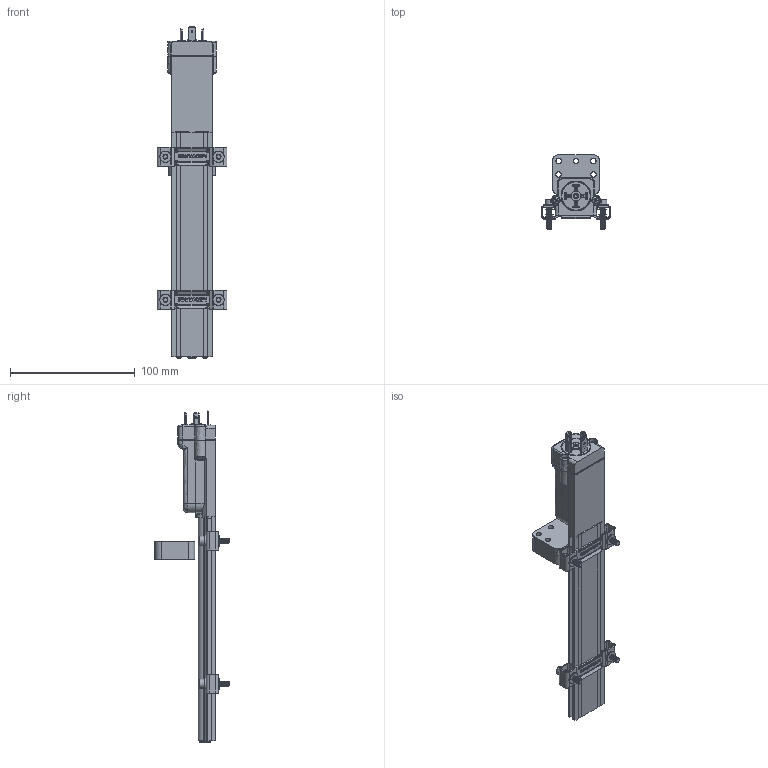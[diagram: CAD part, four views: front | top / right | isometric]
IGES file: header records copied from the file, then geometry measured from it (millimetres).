
Start section: SolidWorks IGES file using analytic representation for surfaces
Global section: file name: \\srv4gefran\dir-cat\Disegni Catalogo\Posizione\WPG\WPG-A-0100\3D\Solidworks 2019\WPG-A-0100.IGS; native system: SolidWorks 2019; preprocessor: SolidWorks 2019; author: Loda-w1; date: 181217.140540; units: millimetre
Bounding box: 56 x 59.5 x 266 mm (x, y, z)
Surface area: 56654.9 mm2 (no closed solid volume)
Topology: 0 solids, 0 shells, 2331 faces, 19927 edges, 19849 vertices
Faces by surface type: revolution 1195, bspline 1136
